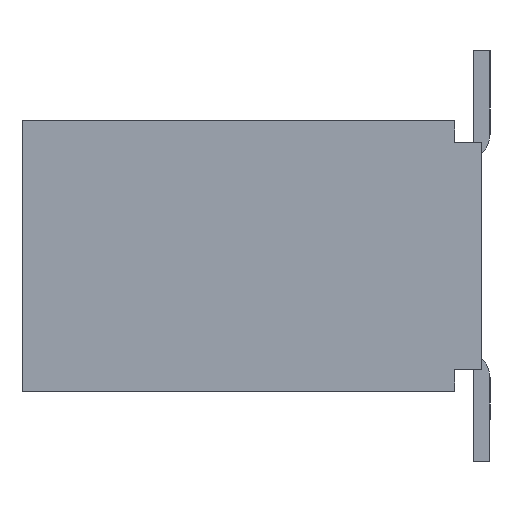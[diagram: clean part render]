
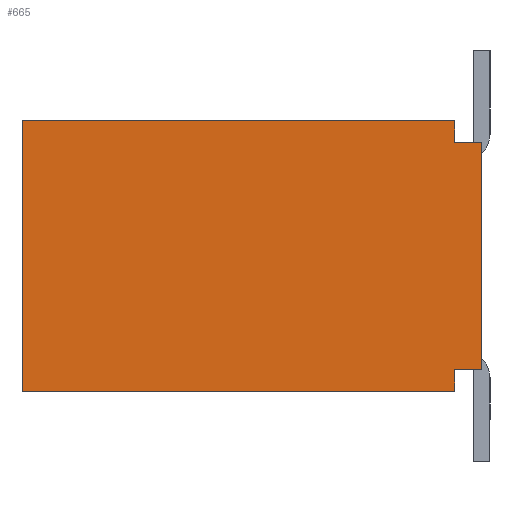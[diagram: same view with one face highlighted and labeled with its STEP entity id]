
A CAD part, left-side view. The second image highlights one B-rep face of the part: STEP entity #665.
In plain terms, the highlighted planar face has unit normal (-1, 0, 0).
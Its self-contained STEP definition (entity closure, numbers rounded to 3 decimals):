
#665=ADVANCED_FACE('',(#2375),#1556,.T.);
#1556=PLANE('',#16693);
#2375=FACE_OUTER_BOUND('',#3264,.T.);
#3264=EDGE_LOOP('',(#4244,#4245,#4246,#4247,#4248,#4249,#4250,#4251));
#4244=ORIENTED_EDGE('',*,*,#10212,.T.);
#4245=ORIENTED_EDGE('',*,*,#10213,.F.);
#4246=ORIENTED_EDGE('',*,*,#10214,.F.);
#4247=ORIENTED_EDGE('',*,*,#10215,.T.);
#4248=ORIENTED_EDGE('',*,*,#10216,.T.);
#4249=ORIENTED_EDGE('',*,*,#10217,.T.);
#4250=ORIENTED_EDGE('',*,*,#10218,.T.);
#4251=ORIENTED_EDGE('',*,*,#10219,.T.);
#8756=VERTEX_POINT('',#21914);
#8757=VERTEX_POINT('',#21915);
#8758=VERTEX_POINT('',#21917);
#8759=VERTEX_POINT('',#21919);
#8760=VERTEX_POINT('',#21921);
#8761=VERTEX_POINT('',#21923);
#8762=VERTEX_POINT('',#21925);
#8763=VERTEX_POINT('',#21927);
#10212=EDGE_CURVE('',#8756,#8757,#12468,.T.);
#10213=EDGE_CURVE('',#8758,#8757,#12469,.T.);
#10214=EDGE_CURVE('',#8759,#8758,#12470,.T.);
#10215=EDGE_CURVE('',#8759,#8760,#12471,.T.);
#10216=EDGE_CURVE('',#8760,#8761,#12472,.T.);
#10217=EDGE_CURVE('',#8761,#8762,#12473,.T.);
#10218=EDGE_CURVE('',#8762,#8763,#12474,.T.);
#10219=EDGE_CURVE('',#8763,#8756,#12475,.T.);
#12468=LINE('',#21913,#14580);
#12469=LINE('',#21916,#14581);
#12470=LINE('',#21918,#14582);
#12471=LINE('',#21920,#14583);
#12472=LINE('',#21922,#14584);
#12473=LINE('',#21924,#14585);
#12474=LINE('',#21926,#14586);
#12475=LINE('',#21928,#14587);
#14580=VECTOR('',#17730,1.);
#14581=VECTOR('',#17731,1.);
#14582=VECTOR('',#17732,1.);
#14583=VECTOR('',#17733,1.);
#14584=VECTOR('',#17734,1.);
#14585=VECTOR('',#17735,1.);
#14586=VECTOR('',#17736,1.);
#14587=VECTOR('',#17737,1.);
#16693=AXIS2_PLACEMENT_3D('',#21929,#17738,#17739);
#17730=DIRECTION('',(0.,1.,0.));
#17731=DIRECTION('',(0.,0.,1.));
#17732=DIRECTION('',(0.,1.,0.));
#17733=DIRECTION('',(0.,0.,1.));
#17734=DIRECTION('',(0.,-1.,0.));
#17735=DIRECTION('',(0.,0.,1.));
#17736=DIRECTION('',(0.,1.,0.));
#17737=DIRECTION('',(0.,0.,1.));
#17738=DIRECTION('',(-1.,0.,0.));
#17739=DIRECTION('',(0.,0.,-1.));
#21913=CARTESIAN_POINT('',(-12.5,0.,0.));
#21914=CARTESIAN_POINT('',(-12.5,0.5,0.));
#21915=CARTESIAN_POINT('',(-12.5,8.5,0.));
#21916=CARTESIAN_POINT('',(-12.5,8.5,-2.5));
#21917=CARTESIAN_POINT('',(-12.5,8.5,-5.));
#21918=CARTESIAN_POINT('',(-12.5,0.,-5.));
#21919=CARTESIAN_POINT('',(-12.5,0.5,-5.));
#21920=CARTESIAN_POINT('',(-12.5,0.5,2.801));
#21921=CARTESIAN_POINT('',(-12.5,0.5,-4.6));
#21922=CARTESIAN_POINT('',(-12.5,0.,-4.6));
#21923=CARTESIAN_POINT('',(-12.5,0.,-4.6));
#21924=CARTESIAN_POINT('',(-12.5,0.,2.801));
#21925=CARTESIAN_POINT('',(-12.5,0.,-0.4));
#21926=CARTESIAN_POINT('',(-12.5,0.,-0.4));
#21927=CARTESIAN_POINT('',(-12.5,0.5,-0.4));
#21928=CARTESIAN_POINT('',(-12.5,0.5,2.801));
#21929=CARTESIAN_POINT('',(-12.5,0.,-5.));
